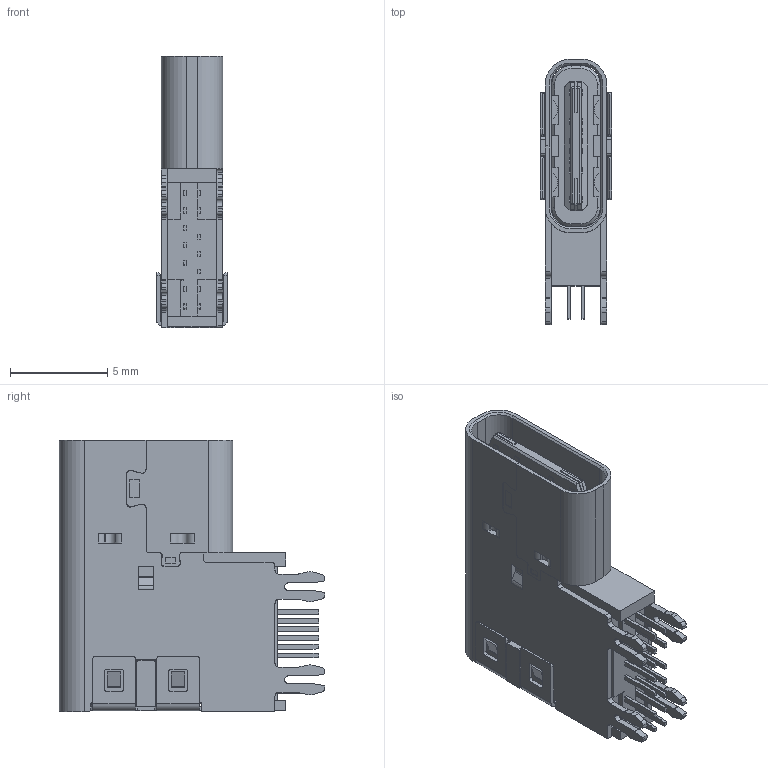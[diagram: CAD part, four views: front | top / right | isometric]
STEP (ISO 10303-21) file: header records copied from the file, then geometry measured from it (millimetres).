
FILE_DESCRIPTION (( 'STEP AP214' ), '1' );
FILE_NAME ('耜脣.STEP', '2018-03-09T05:53:20', ( '' ), ( '' ), 'SwSTEP 2.0', 'SolidWorks 2016', '' );
FILE_SCHEMA (( 'AUTOMOTIVE_DESIGN' ));
Length unit declared in the file: millimetre
Products named in the file (3): type c 耜脣俋褲; 零件1^侧插; 耜脣
Assembly tree (2 placements, depth 2):
  耜脣
    type c 耜脣俋褲
    零件1^侧插
Bounding box: 3.7 x 13.67 x 14 mm (x, y, z)
Volume: 345.9 mm3; surface area: 1186.8 mm2
Topology: 6 solids, 6 shells, 829 faces, 2346 edges, 1546 vertices
Faces by surface type: plane 604, cylinder 215, cone 10
Entity records: 36017 total; most frequent: CARTESIAN_POINT 4786, ORIENTED_EDGE 4692, DIRECTION 4454, EDGE_CURVE 2346, VECTOR 1866, LINE 1866, VERTEX_POINT 1546, AXIS2_PLACEMENT_3D 1294
